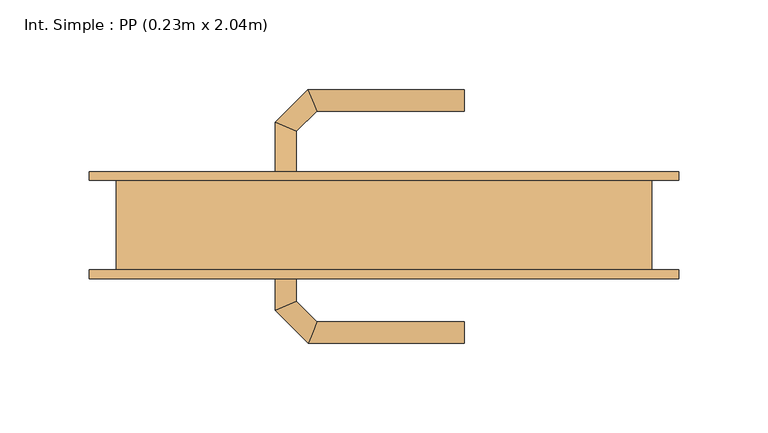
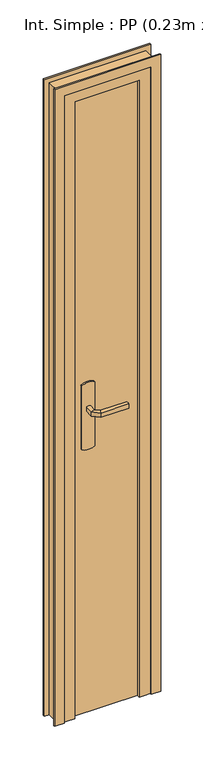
"""IFC4 building model written with IfcOpenShell, lengths in millimetres: door geometry, Int. Simple : PP (0.23m x 2.04m)."""

from ifc_helpers import new_model, si_unit, point, frame, frame_2d, origin, origin_with_axes, place, context, project, spatial, polyline, circle_curve, ellipse_curve, trimmed, segment, composite_curve, outline, extrude, faceted_brep, source, transform, mapped, element, save
from ifc_brep_helpers import plane_surface, cylinder_surface, advanced_brep


def int_simple_pp_0_23m_x_2_04m_1e010de2(model_context):
    return source(origin(), model_context, "Body", "SolidModel", [
        extrude(outline(composite_curve([segment(trimmed(circle_curve(frame_2d((904.6410162, -90.0)), 40.0), [point((870.0, -110.0))], [point((870.0, -70.0))], False, "CARTESIAN"), True, "CONTINUOUS"), segment(polyline([(870.0, -70.0), (1080.0, -70.0)]), True, "CONTINUOUS"), segment(trimmed(circle_curve(frame_2d((1045.3589838, -90.0)), 40.0), [point((1080.0, -70.0))], [point((1080.0, -110.0))], False, "CARTESIAN"), True, "CONTINUOUS"), segment(polyline([(1080.0, -110.0), (870.0, -110.0)]), True, "CONTINUOUS")], self_intersect=False)), frame((0.0, 25.0, 0.0), z_axis=(0.0, 1.0, 0.0), x_axis=(0.0, 0.0, 1.0)), (0.0, 0.0, 1.0), 5.0),
        extrude(outline(composite_curve([segment(trimmed(circle_curve(frame_2d((1045.3589838, -90.0)), 40.0), [point((1080.0, -70.0))], [point((1080.0, -110.0))], False, "CARTESIAN"), True, "CONTINUOUS"), segment(polyline([(1080.0, -110.0), (870.0, -110.0)]), True, "CONTINUOUS"), segment(trimmed(circle_curve(frame_2d((904.6410162, -90.0)), 40.0), [point((870.0, -110.0))], [point((870.0, -70.0))], False, "CARTESIAN"), True, "CONTINUOUS"), segment(polyline([(870.0, -70.0), (1080.0, -70.0)]), True, "CONTINUOUS")], self_intersect=False)), frame((0.0, -20.0, 0.0), z_axis=(0.0, 1.0, 0.0), x_axis=(0.0, 0.0, 1.0)), (0.0, 0.0, 1.0), 5.0),
        advanced_brep(
        [(-96.0, 30.0, 1007.0), (-96.0, 30.0, 993.0), (-84.0, 30.0, 993.0), (-84.0, 30.0, 1007.0), (-84.0, 52.680388, 1007.0), (-96.0, 57.6509507, 1007.0), (-84.0, 52.680388, 993.0), (-96.0, 57.6509507, 993.0), (-72.6522273, 64.0281607, 1007.0), (-77.62279, 76.0281607, 1007.0), (-72.6522273, 64.0281607, 993.0), (-77.62279, 76.0281607, 993.0), (10.0186406, 76.0281607, 1007.0), (10.0186406, 64.0281607, 1007.0), (10.0186406, 64.0281607, 993.0), (10.0186406, 76.0281607, 993.0)],
        [
            (0, 1),
            (1, 2, circle_curve(frame((-90.0, 30.0, 1013.0457722), z_axis=(0.0, -1.0, 0.0), x_axis=(1.0, 0.0, 0.0)), 20.9244589)),
            (2, 3),
            (3, 0, circle_curve(frame((-90.0, 30.0, 986.9542278), z_axis=(0.0, -1.0, 0.0), x_axis=(1.0, 0.0, 0.0)), 20.9244589)),
            (3, 4),
            (4, 5, ellipse_curve(frame((-90.0, 55.1656693, 986.9542278), z_axis=(-0.3826834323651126, -0.9238795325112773, 0.0), x_axis=(0.9238795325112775, -0.38268343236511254, 0.0)), 22.6484711, 20.9244589)),
            (5, 0),
            (2, 6),
            (6, 4),
            (1, 7),
            (7, 6, ellipse_curve(frame((-90.0, 55.1656693, 1013.0457722), z_axis=(-0.3826834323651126, -0.9238795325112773, 0.0), x_axis=(0.9238795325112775, -0.38268343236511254, 0.0)), 22.6484711, 20.9244589)),
            (5, 7),
            (4, 8),
            (8, 9, ellipse_curve(frame((-75.1375086, 70.0281607, 986.9542278), z_axis=(-0.9238795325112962, -0.38268343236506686, 0.0), x_axis=(0.3826834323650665, -0.9238795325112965, 0.0)), 22.6484711, 20.9244589)),
            (9, 5),
            (6, 10),
            (10, 8),
            (7, 11),
            (11, 10, ellipse_curve(frame((-75.1375086, 70.0281607, 1013.0457722), z_axis=(-0.9238795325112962, -0.38268343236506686, 0.0), x_axis=(0.3826834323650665, -0.9238795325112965, 0.0)), 22.6484711, 20.9244589)),
            (9, 11),
            (12, 13, circle_curve(frame((10.0186406, 70.0281607, 986.9542278), z_axis=(1.0, 0.0, 0.0), x_axis=(0.0, -1.0, 0.0)), 20.9244589)),
            (13, 14),
            (14, 15, circle_curve(frame((10.0186406, 70.0281607, 1013.0457722), z_axis=(1.0, 0.0, 0.0), x_axis=(0.0, -1.0, 0.0)), 20.9244589)),
            (15, 12),
            (8, 13),
            (12, 9),
            (10, 14),
            (11, 15),
        ],
        [
            plane_surface(frame((-99.2195445, 30.0, 1000.0), z_axis=(0.0, -1.0, 0.0), x_axis=(0.0, 0.0, -1.0))),
            cylinder_surface(frame((-90.0, 30.0, 986.9542278), z_axis=(0.0, -1.0, 0.0), x_axis=(1.0, 0.0, 0.0)), 20.9244589),
            plane_surface(frame((-84.0, 30.0, 1007.0), z_axis=(1.0, 0.0, 0.0), x_axis=(0.0, 1.0, 0.0))),
            cylinder_surface(frame((-90.0, 30.0, 1013.0457722), z_axis=(0.0, -1.0, 0.0), x_axis=(1.0, 0.0, 0.0)), 20.9244589),
            plane_surface(frame((-96.0, 30.0, 993.0), z_axis=(-1.0, 0.0, 0.0), x_axis=(0.0, 1.0, 0.0))),
            cylinder_surface(frame((-90.0, 55.1656693, 986.9542278), z_axis=(-0.7071067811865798, -0.7071067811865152, 0.0), x_axis=(0.7071067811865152, -0.7071067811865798, 0.0)), 20.9244589),
            plane_surface(frame((-84.0, 52.680388, 1007.0), z_axis=(0.7071067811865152, -0.7071067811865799, 0.0), x_axis=(0.7071067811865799, 0.7071067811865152, 0.0))),
            cylinder_surface(frame((-90.0, 55.1656693, 1013.0457722), z_axis=(-0.7071067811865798, -0.7071067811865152, 0.0), x_axis=(0.7071067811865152, -0.7071067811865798, 0.0)), 20.9244589),
            plane_surface(frame((-96.0, 57.6509507, 993.0), z_axis=(-0.7071067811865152, 0.7071067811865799, 0.0), x_axis=(0.7071067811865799, 0.7071067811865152, 0.0))),
            plane_surface(frame((10.0186406, 70.0281607, 990.7804555), z_axis=(1.0, 0.0, 0.0), x_axis=(0.0, -1.0, 0.0))),
            cylinder_surface(frame((-75.1375086, 70.0281607, 986.9542278), z_axis=(-1.0, 0.0, 0.0), x_axis=(0.0, -1.0, 0.0)), 20.9244589),
            plane_surface(frame((-72.6522273, 64.0281607, 1007.0), z_axis=(0.0, -1.0, 0.0), x_axis=(1.0, 0.0, 0.0))),
            cylinder_surface(frame((-75.1375086, 70.0281607, 1013.0457722), z_axis=(-1.0, 0.0, 0.0), x_axis=(0.0, -1.0, 0.0)), 20.9244589),
            plane_surface(frame((-77.62279, 76.0281607, 993.0), z_axis=(0.0, 1.0, 0.0), x_axis=(1.0, 0.0, 0.0))),
        ],
        [
            (0, [[1, 2, 3, 4]]),
            (1, [[5, 6, 7, -4]]),
            (2, [[8, 9, -5, -3]]),
            (3, [[10, 11, -8, -2]]),
            (4, [[-7, 12, -10, -1]]),
            (5, [[13, 14, 15, -6]]),
            (6, [[16, 17, -13, -9]]),
            (7, [[18, 19, -16, -11]]),
            (8, [[-15, 20, -18, -12]]),
            (9, [[21, 22, 23, 24]]),
            (10, [[25, -21, 26, -14]]),
            (11, [[27, -22, -25, -17]]),
            (12, [[28, -23, -27, -19]]),
            (13, [[-26, -24, -28, -20]]),
        ],
    ),
        advanced_brep(
        [(-84.0, -20.0, 993.0), (-96.0, -20.0, 993.0), (-96.0, -20.0, 1007.0), (-84.0, -20.0, 1007.0), (-84.0, -42.4852045, 1007.0), (-84.0, -42.4852045, 993.0), (-96.0, -47.4557673, 1007.0), (-96.0, -47.4557673, 993.0), (-72.5147186, -53.9704859, 1007.0), (-72.5147186, -53.9704859, 993.0), (-77.4852814, -65.9704859, 1007.0), (-77.4852814, -65.9704859, 993.0), (10.0457837, -53.9704859, 993.0), (10.0457837, -53.9704859, 1007.0), (10.0457837, -65.9704859, 1007.0), (10.0457837, -65.9704859, 993.0)],
        [
            (0, 1, circle_curve(frame((-90.0, -20.0, 1013.0457722), z_axis=(0.0, 1.0, 0.0), x_axis=(-1.0, 0.0, 0.0)), 20.9244589)),
            (1, 2),
            (2, 3, circle_curve(frame((-90.0, -20.0, 986.9542278), z_axis=(0.0, 1.0, 0.0), x_axis=(-1.0, 0.0, 0.0)), 20.9244589)),
            (3, 0),
            (3, 4),
            (4, 5),
            (5, 0),
            (2, 6),
            (6, 4, ellipse_curve(frame((-90.0, -44.9704859, 986.9542278), z_axis=(-0.3826834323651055, 0.9238795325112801, 0.0), x_axis=(0.9238795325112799, 0.3826834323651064, 0.0)), 22.6484711, 20.9244589)),
            (1, 7),
            (7, 6),
            (5, 7, ellipse_curve(frame((-90.0, -44.9704859, 1013.0457722), z_axis=(-0.3826834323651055, 0.9238795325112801, 0.0), x_axis=(0.9238795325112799, 0.3826834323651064, 0.0)), 22.6484711, 20.9244589)),
            (4, 8),
            (8, 9),
            (9, 5),
            (6, 10),
            (10, 8, ellipse_curve(frame((-75.0, -59.9704859, 986.9542278), z_axis=(-0.9238795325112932, 0.382683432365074, 0.0), x_axis=(0.3826834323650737, 0.9238795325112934, 0.0)), 22.6484711, 20.9244589)),
            (7, 11),
            (11, 10),
            (9, 11, ellipse_curve(frame((-75.0, -59.9704859, 1013.0457722), z_axis=(-0.9238795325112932, 0.382683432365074, 0.0), x_axis=(0.3826834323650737, 0.9238795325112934, 0.0)), 22.6484711, 20.9244589)),
            (12, 13),
            (13, 14, circle_curve(frame((10.0457837, -59.9704859, 986.9542278), z_axis=(1.0, 0.0, 0.0), x_axis=(0.0, -1.0, 0.0)), 20.9244589)),
            (14, 15),
            (15, 12, circle_curve(frame((10.0457837, -59.9704859, 1013.0457722), z_axis=(1.0, 0.0, 0.0), x_axis=(0.0, -1.0, 0.0)), 20.9244589)),
            (8, 13),
            (12, 9),
            (10, 14),
            (11, 15),
        ],
        [
            plane_surface(frame((-99.2195445, -20.0, 1000.0), z_axis=(0.0, 1.0, 0.0), x_axis=(0.0, 0.0, 1.0))),
            plane_surface(frame((-84.0, -20.0, 993.0), z_axis=(1.0, 0.0, 0.0), x_axis=(0.0, -1.0, 0.0))),
            cylinder_surface(frame((-90.0, -20.0, 986.9542278), z_axis=(0.0, 1.0, 0.0), x_axis=(-1.0, 0.0, 0.0)), 20.9244589),
            plane_surface(frame((-96.0, -20.0, 1007.0), z_axis=(-1.0, 0.0, 0.0), x_axis=(0.0, -1.0, 0.0))),
            cylinder_surface(frame((-90.0, -20.0, 1013.0457722), z_axis=(0.0, 1.0, 0.0), x_axis=(-1.0, 0.0, 0.0)), 20.9244589),
            plane_surface(frame((-84.0, -42.4852045, 993.0), z_axis=(0.7071067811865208, 0.7071067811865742, 0.0), x_axis=(0.7071067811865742, -0.7071067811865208, 0.0))),
            cylinder_surface(frame((-90.0, -44.9704859, 986.9542278), z_axis=(-0.7071067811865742, 0.7071067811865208, 0.0), x_axis=(-0.7071067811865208, -0.7071067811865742, 0.0)), 20.9244589),
            plane_surface(frame((-96.0, -47.4557673, 1007.0), z_axis=(-0.7071067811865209, -0.7071067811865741, 0.0), x_axis=(0.7071067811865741, -0.7071067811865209, 0.0))),
            cylinder_surface(frame((-90.0, -44.9704859, 1013.0457722), z_axis=(-0.7071067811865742, 0.7071067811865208, 0.0), x_axis=(-0.7071067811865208, -0.7071067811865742, 0.0)), 20.9244589),
            plane_surface(frame((10.0457837, -59.9704859, 990.7804555), z_axis=(1.0, 0.0, 0.0), x_axis=(0.0, -1.0, 0.0))),
            plane_surface(frame((-72.5147186, -53.9704859, 993.0), z_axis=(0.0, 1.0, 0.0), x_axis=(1.0, 0.0, 0.0))),
            cylinder_surface(frame((-75.0, -59.9704859, 986.9542278), z_axis=(-1.0, 0.0, 0.0), x_axis=(0.0, -1.0, 0.0)), 20.9244589),
            plane_surface(frame((-77.4852814, -65.9704859, 1007.0), z_axis=(0.0, -1.0, 0.0), x_axis=(1.0, 0.0, 0.0))),
            cylinder_surface(frame((-75.0, -59.9704859, 1013.0457722), z_axis=(-1.0, 0.0, 0.0), x_axis=(0.0, -1.0, 0.0)), 20.9244589),
        ],
        [
            (0, [[1, 2, 3, 4]]),
            (1, [[5, 6, 7, -4]]),
            (2, [[8, 9, -5, -3]]),
            (3, [[10, 11, -8, -2]]),
            (4, [[-7, 12, -10, -1]]),
            (5, [[13, 14, 15, -6]]),
            (6, [[16, 17, -13, -9]]),
            (7, [[18, 19, -16, -11]]),
            (8, [[-15, 20, -18, -12]]),
            (9, [[21, 22, 23, 24]]),
            (10, [[25, -21, 26, -14]]),
            (11, [[27, -22, -25, -17]]),
            (12, [[28, -23, -27, -19]]),
            (13, [[-26, -24, -28, -20]]),
        ],
    ),
        extrude(outline(polyline([(-150.0, -15.0), (-150.0, 25.0), (80.0, 25.0), (80.0, -15.0), (-150.0, -15.0)])), origin_with_axes(), (0.0, 0.0, 1.0), 2040.0),
        faceted_brep([(-185.0, 25.0, 0.0), (-150.0, 25.0, 0.0), (-150.0, -15.0, 0.0), (-135.0, -15.0, 0.0), (-135.0, -25.0, 0.0), (-185.0, -25.0, 0.0), (-185.0, -25.0, 2075.0), (-185.0, 25.0, 2075.0), (-135.0, -25.0, 2025.0), (65.0, -25.0, 2025.0), (65.0, -25.0, 0.0), (115.0, -25.0, 0.0), (115.0, -25.0, 2075.0), (-135.0, -15.0, 2025.0), (-150.0, -15.0, 2040.0), (80.0, -15.0, 2040.0), (80.0, -15.0, 0.0), (65.0, -15.0, 0.0), (65.0, -15.0, 2025.0), (-150.0, 25.0, 2040.0), (115.0, 25.0, 2075.0), (115.0, 25.0, 0.0), (80.0, 25.0, 0.0), (80.0, 25.0, 2040.0)], [[[0, 1, 2, 3, 4, 5]], [[5, 6, 7, 0]], [[4, 8, 9, 10, 11, 12, 6, 5]], [[3, 13, 8, 4]], [[2, 14, 15, 16, 17, 18, 13, 3]], [[1, 19, 14, 2]], [[0, 7, 20, 21, 22, 23, 19, 1]], [[12, 11, 21, 20]], [[21, 11, 10, 17, 16, 22]], [[18, 17, 10, 9]], [[23, 22, 16, 15]], [[6, 12, 20, 7]], [[13, 18, 9, 8]], [[19, 23, 15, 14]]]),
        extrude(outline(polyline([(0.0, -170.0), (2060.0, -170.0), (2060.0, 100.0), (0.0, 100.0), (0.0, 130.0), (2090.0, 130.0), (2090.0, -200.0), (0.0, -200.0), (0.0, -170.0)])), frame((0.0, 25.0, 0.0), z_axis=(0.0, 1.0, 0.0), x_axis=(0.0, 0.0, 1.0)), (0.0, 0.0, 1.0), 5.0),
        extrude(outline(polyline([(0.0, -170.0), (2060.0, -170.0), (2060.0, 100.0), (0.0, 100.0), (0.0, 130.0), (2090.0, 130.0), (2090.0, -200.0), (0.0, -200.0), (0.0, -170.0)])), frame((0.0, -30.0, 0.0), z_axis=(0.0, 1.0, 0.0), x_axis=(0.0, 0.0, 1.0)), (0.0, 0.0, 1.0), 5.0),
    ])


if __name__ == "__main__":
    model = new_model("IFC4")
    model_context = context("Model", 3, world=origin())
    ifc_project = project(units=[si_unit("LENGTHUNIT", "METRE", prefix="MILLI")], contexts=[model_context])
    site = spatial("IfcSite", under=ifc_project)
    building = spatial("IfcBuilding", under=site)
    placement = place(None, origin())
    int_simple_pp_0_23m_x_2_04m_shape = int_simple_pp_0_23m_x_2_04m_1e010de2(model_context)
    element("IfcDoor", 1, ObjectType="Int. Simple : PP (0.23m x 2.04m)", at=placement, inside=building, context=model_context, shape_type="MappedRepresentation", body=[
        mapped(int_simple_pp_0_23m_x_2_04m_shape, transform((0.0, 0.0, 0.0), x_axis=(1.0, 0.0, 0.0), y_axis=(0.0, 1.0, 0.0), z_axis=(0.0, 0.0, 1.0))),
    ])
    save(model, "model.ifc")
